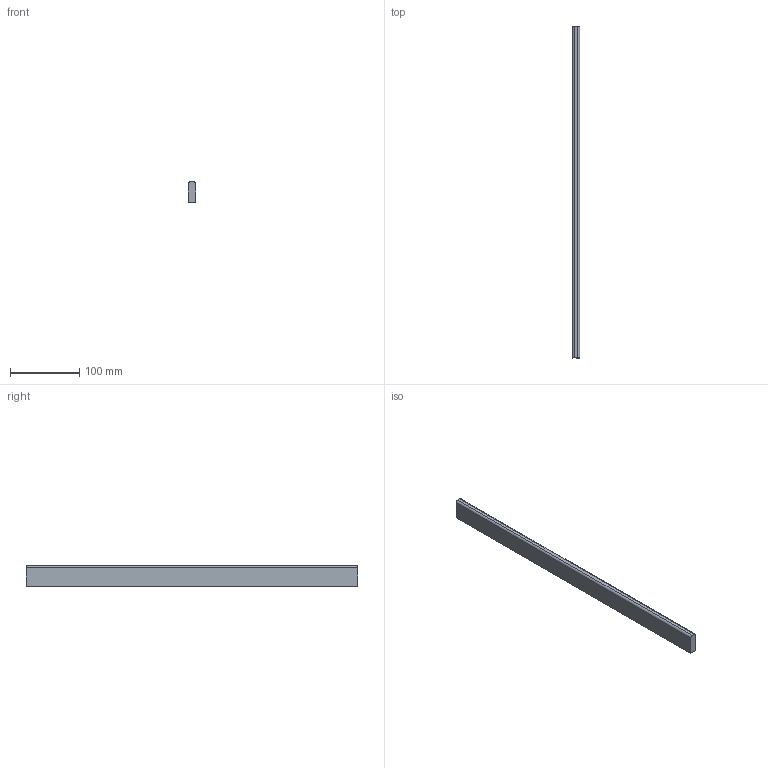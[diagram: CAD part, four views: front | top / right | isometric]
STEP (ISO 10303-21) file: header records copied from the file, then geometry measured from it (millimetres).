
FILE_DESCRIPTION (( 'STEP AP214' ), '1' );
FILE_NAME ('_Seitenreling_SP60701200_RL480.step', '2010-09-06T14:51:40', ( 'grass' ), ( '' ), 'SwSTEP 2.0', 'SolidWorks 2010', '' );
FILE_SCHEMA (( 'AUTOMOTIVE_DESIGN' ));
Length unit declared in the file: millimetre
Products named in the file (1): _Seitenreling_SP60701200_RL480
Bounding box: 10.5 x 480 x 30 mm (x, y, z)
Volume: 149345.8 mm3; surface area: 38266.2 mm2
Topology: 1 solids, 1 shells, 8 faces, 18 edges, 12 vertices
Faces by surface type: plane 6, cylinder 2
Entity records: 260 total; most frequent: DIRECTION 40, CARTESIAN_POINT 39, ORIENTED_EDGE 36, EDGE_CURVE 18, LINE 14, VECTOR 14, AXIS2_PLACEMENT_3D 13, VERTEX_POINT 12
